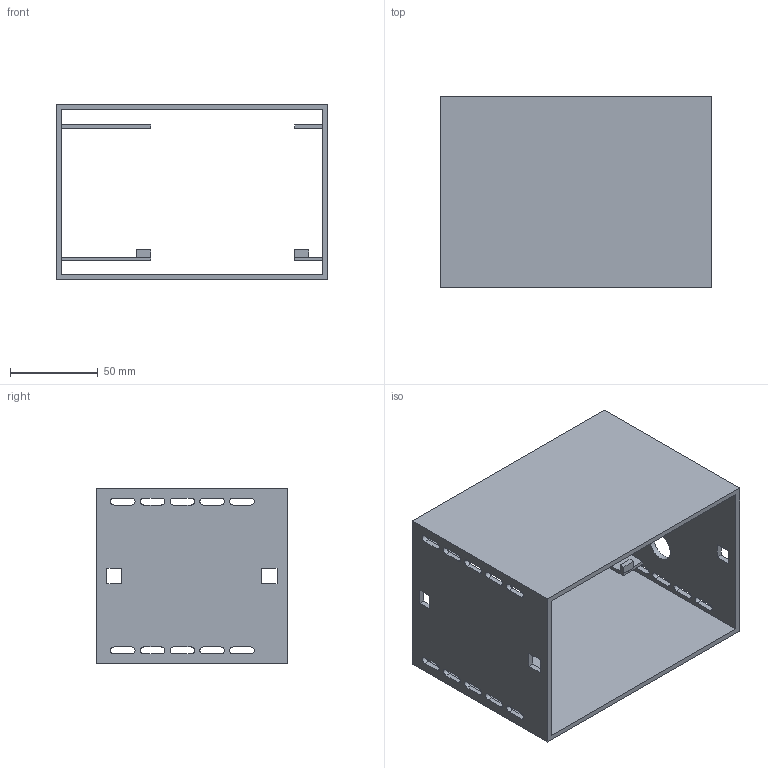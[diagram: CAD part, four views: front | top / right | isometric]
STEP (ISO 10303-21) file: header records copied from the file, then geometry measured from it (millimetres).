
FILE_DESCRIPTION(('Open CASCADE Model'),'2;1');
FILE_NAME('Open CASCADE Shape Model','2026-11-10T19:16:45',('Author'),( 'Open CASCADE'),'Open CASCADE STEP processor 7.8','Open CASCADE 7.8' ,'Unknown');
FILE_SCHEMA(('AUTOMOTIVE_DESIGN { 1 0 10303 214 1 1 1 1 }'));
Length unit declared in the file: millimetre
Products named in the file (1): Open CASCADE STEP translator 7.8 2
Bounding box: 155 x 109 x 100 mm (x, y, z)
Volume: 166142.4 mm3; surface area: 119469.9 mm2
Topology: 1 solids, 1 shells, 137 faces, 393 edges, 262 vertices
Faces by surface type: plane 96, cylinder 41
Full cylindrical faces by diameter (mm): 16 x1
Entity records: 9364 total; most frequent: CARTESIAN_POINT 1907, DIRECTION 1209, ORIENTED_EDGE 786, PCURVE 786, DEFINITIONAL_REPRESENTATION 786, LINE 687, VECTOR 687, EDGE_CURVE 393
